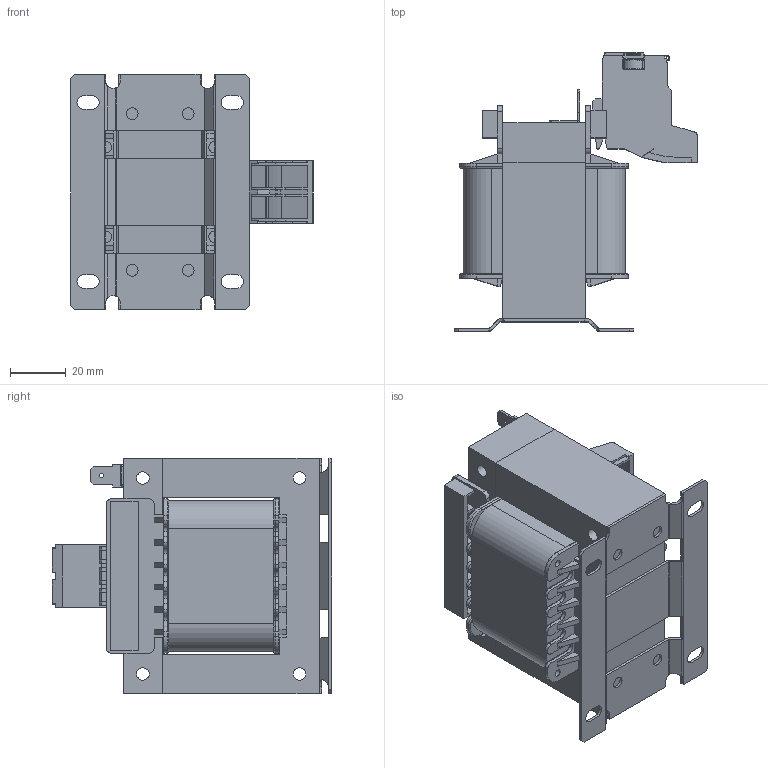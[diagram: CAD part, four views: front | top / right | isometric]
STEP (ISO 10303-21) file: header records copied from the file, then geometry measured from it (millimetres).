
FILE_DESCRIPTION (( 'STEP AP214' ), '1' );
FILE_NAME ('PCO-025.STEP', '2015-04-28T12:15:35', ( 'EDV' ), ( 'Microsoft' ), 'SwSTEP 2.0', 'SolidWorks 2014', '' );
FILE_SCHEMA (( 'AUTOMOTIVE_DESIGN' ));
Length unit declared in the file: millimetre
Products named in the file (7): BTK 10_2 +2202-0023; Wickel EI84_29,5-1MS; +2220-0010; +6700-0008; EI84-29,5-1MS; EI84-29,5; PCO-025
Assembly tree (6 placements, depth 2):
  PCO-025
    EI84-29,5
    EI84-29,5-1MS
    +6700-0008
    +2220-0010
    Wickel EI84_29,5-1MS
    BTK 10_2 +2202-0023
Bounding box: 86.75 x 99.85 x 84 mm (x, y, z)
Volume: 254598.3 mm3; surface area: 95101.3 mm2
Topology: 7 solids, 7 shells, 2830 faces, 7875 edges, 5104 vertices
Faces by surface type: plane 2174, cylinder 423, bspline 133, torus 100
Full cylindrical faces by diameter (mm): 1.5 x1, 2.316 x1, 2.5 x4, 4.2 x4, 4.5 x4, 4.805 x1, 5.205 x1
Entity records: 99540 total; most frequent: CARTESIAN_POINT 24215, ORIENTED_EDGE 15668, DIRECTION 13596, EDGE_CURVE 7834, LINE 6564, VECTOR 6564, VERTEX_POINT 5100, AXIS2_PLACEMENT_3D 3516
